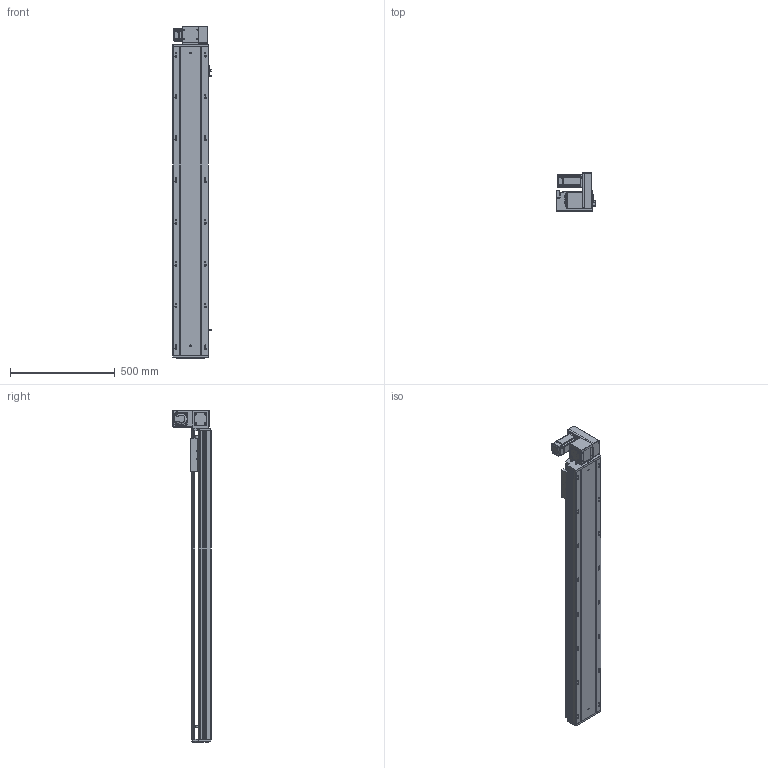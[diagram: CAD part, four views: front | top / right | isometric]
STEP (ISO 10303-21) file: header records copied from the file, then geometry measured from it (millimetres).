
FILE_DESCRIPTION (( 'STEP AP203' ), '1' );
FILE_NAME ('RY170-T-300-UR-P400W.SLDASM_1200.step', '2021-03-01T09:27:55', ( '盈信电脑' ), ( '东莞市道滘镇水果街19号' ), 'SwSTEP 2.0', 'SolidWorks 2012', '' );
FILE_SCHEMA (( 'CONFIG_CONTROL_DESIGN' ));
Length unit declared in the file: millimetre
Products named in the file (18): RY170-T-300-UR-P400W.SLDASM_1200; 15; 滅袉蝶18-10; RY170-T蹟翐M4; RY170-T肮祭謫裔啣; RY170-T肮祭湍揤踡輸2; RY120-T主同步轮轴承压盖; RY170同步轮电机安装板(400W); RY170肮祭謫萇儂欶; RY170翋肮祭謫釱; RY170-T肮祭湍揤踡輸1; RY170外置感应片(200共用）; RY170肮祭謫ヶ裔啣; 覜茼ん672; RY170肮祭湍臏賑輸; RY170綴裔啣; RY170-T-300肮祭謫倰第菁釱-DR_1200; RY170-T-300肮祭謫倰第裔啣-DR_1200
Assembly tree (22 placements, depth 2):
  RY170-T-300-UR-P400W.SLDASM_1200
    RY170-T-300肮祭謫倰第菁釱-DR_1200
    RY170肮祭湍臏賑輸
    RY170-T-300肮祭謫倰第裔啣-DR_1200
    RY170綴裔啣
    覜茼ん672  x3
    RY170外置感应片(200共用）
    RY170肮祭謫ヶ裔啣
    RY170翋肮祭謫釱
    RY170同步轮电机安装板(400W)
    RY170肮祭謫萇儂欶
    RY170-T肮祭湍揤踡輸1  x2
    RY170-T肮祭湍揤踡輸2  x2
    RY120-T主同步轮轴承压盖
    RY170-T肮祭謫裔啣
    RY170-T蹟翐M4
    滅袉蝶18-10  x2
    15
Bounding box: 183.7 x 182 x 1588 mm (x, y, z)
Volume: 7753143 mm3; surface area: 2639407.9 mm2
Topology: 22 solids, 22 shells, 2796 faces, 7762 edges, 4973 vertices
Faces by surface type: plane 1262, cylinder 1252, cone 252, bspline 30
Entity records: 83368 total; most frequent: CARTESIAN_POINT 18587, ORIENTED_EDGE 13200, DIRECTION 13000, EDGE_CURVE 6600, AXIS2_PLACEMENT_3D 4576, VERTEX_POINT 4329, VECTOR 3848, LINE 3848
